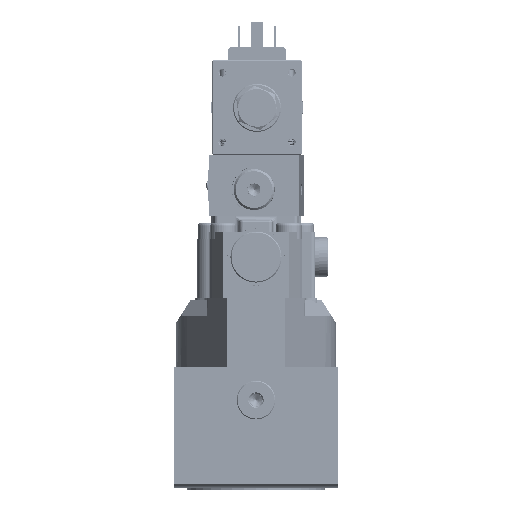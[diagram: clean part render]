
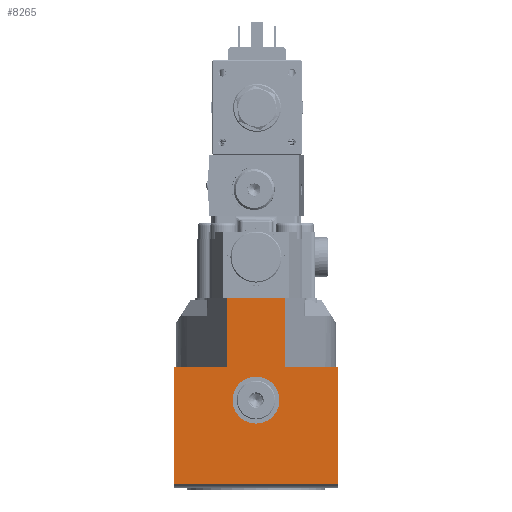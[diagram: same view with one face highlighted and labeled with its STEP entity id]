
A CAD part, left-side view. The second image highlights one B-rep face of the part: STEP entity #8265.
In plain terms, the highlighted planar face has unit normal (-1, 0, 0).
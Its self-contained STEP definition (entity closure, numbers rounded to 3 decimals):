
#2705=LINE('',#158196,#4014);
#2728=LINE('',#158257,#4037);
#2729=LINE('',#158260,#4038);
#2730=LINE('',#158261,#4039);
#2731=LINE('',#158263,#4040);
#2732=LINE('',#158265,#4041);
#2733=LINE('',#158267,#4042);
#2734=LINE('',#158269,#4043);
#4014=VECTOR('',#37590,1.);
#4037=VECTOR('',#37635,1.);
#4038=VECTOR('',#37636,1.);
#4039=VECTOR('',#37637,1.);
#4040=VECTOR('',#37638,1.);
#4041=VECTOR('',#37639,1.);
#4042=VECTOR('',#37640,1.);
#4043=VECTOR('',#37641,1.);
#6754=PLANE('',#31508);
#8265=ADVANCED_FACE('',(#10476,#10477),#6754,.T.);
#10476=FACE_BOUND('',#12936,.T.);
#10477=FACE_BOUND('',#12937,.T.);
#12936=EDGE_LOOP('',(#19070));
#12937=EDGE_LOOP('',(#19071,#19072,#19073,#19074,#19075,#19076,#19077,#19078));
#19070=ORIENTED_EDGE('',*,*,#26823,.F.);
#19071=ORIENTED_EDGE('',*,*,#26824,.F.);
#19072=ORIENTED_EDGE('',*,*,#26825,.T.);
#19073=ORIENTED_EDGE('',*,*,#26794,.F.);
#19074=ORIENTED_EDGE('',*,*,#26826,.T.);
#19075=ORIENTED_EDGE('',*,*,#26827,.F.);
#19076=ORIENTED_EDGE('',*,*,#26828,.F.);
#19077=ORIENTED_EDGE('',*,*,#26829,.T.);
#19078=ORIENTED_EDGE('',*,*,#26830,.F.);
#23332=VERTEX_POINT('',#158197);
#23333=VERTEX_POINT('',#158198);
#23358=VERTEX_POINT('',#158256);
#23359=VERTEX_POINT('',#158258);
#23360=VERTEX_POINT('',#158259);
#23361=VERTEX_POINT('',#158262);
#23362=VERTEX_POINT('',#158264);
#23363=VERTEX_POINT('',#158266);
#23364=VERTEX_POINT('',#158268);
#26794=EDGE_CURVE('',#23332,#23333,#2705,.T.);
#26823=EDGE_CURVE('',#23358,#23358,#28981,.T.);
#26824=EDGE_CURVE('',#23359,#23360,#2728,.T.);
#26825=EDGE_CURVE('',#23359,#23333,#2729,.T.);
#26826=EDGE_CURVE('',#23332,#23361,#2730,.T.);
#26827=EDGE_CURVE('',#23362,#23361,#2731,.T.);
#26828=EDGE_CURVE('',#23363,#23362,#2732,.T.);
#26829=EDGE_CURVE('',#23363,#23364,#2733,.T.);
#26830=EDGE_CURVE('',#23360,#23364,#2734,.T.);
#28981=CIRCLE('',#31507,11.5);
#31507=AXIS2_PLACEMENT_3D('',#158255,#37633,#37634);
#31508=AXIS2_PLACEMENT_3D('',#158270,#37642,#37643);
#37590=DIRECTION('',(0.,1.,0.));
#37633=DIRECTION('',(-1.,0.,0.));
#37634=DIRECTION('',(0.,0.,-1.));
#37635=DIRECTION('',(0.,-1.,0.));
#37636=DIRECTION('',(0.,0.,-1.));
#37637=DIRECTION('',(0.,0.,1.));
#37638=DIRECTION('',(0.,-1.,0.));
#37639=DIRECTION('',(0.,0.,-1.));
#37640=DIRECTION('',(0.,1.,0.));
#37641=DIRECTION('',(0.,0.,1.));
#37642=DIRECTION('',(-1.,0.,0.));
#37643=DIRECTION('',(0.,0.,-1.));
#158196=CARTESIAN_POINT('',(-745.26,136.121,-1.245));
#158197=CARTESIAN_POINT('',(-745.26,-96.932,-1.245));
#158198=CARTESIAN_POINT('',(-745.26,-16.932,-1.245));
#158255=CARTESIAN_POINT('',(-745.26,-56.932,40.));
#158256=CARTESIAN_POINT('',(-745.26,-56.932,28.5));
#158257=CARTESIAN_POINT('',(-745.26,-17.932,56.));
#158258=CARTESIAN_POINT('',(-745.26,-16.932,56.));
#158259=CARTESIAN_POINT('',(-745.26,-42.653,56.));
#158260=CARTESIAN_POINT('',(-745.26,-16.932,47.5));
#158261=CARTESIAN_POINT('',(-745.26,-96.932,47.5));
#158262=CARTESIAN_POINT('',(-745.26,-96.932,56.));
#158263=CARTESIAN_POINT('',(-745.26,-98.332,56.));
#158264=CARTESIAN_POINT('',(-745.26,-71.211,56.));
#158265=CARTESIAN_POINT('',(-745.26,-71.211,56.));
#158266=CARTESIAN_POINT('',(-745.26,-71.211,90.));
#158267=CARTESIAN_POINT('',(-745.26,-98.332,90.));
#158268=CARTESIAN_POINT('',(-745.26,-42.653,90.));
#158269=CARTESIAN_POINT('',(-745.26,-42.653,56.));
#158270=CARTESIAN_POINT('',(-745.26,-56.932,47.5));
